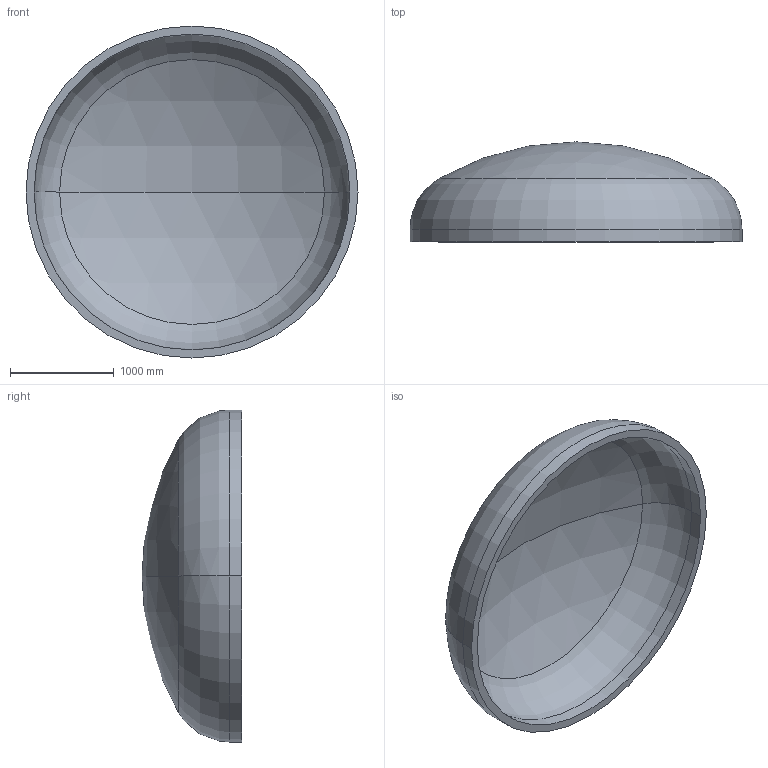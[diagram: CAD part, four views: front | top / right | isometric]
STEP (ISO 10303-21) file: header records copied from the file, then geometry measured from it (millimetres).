
FILE_DESCRIPTION (( 'STEP AP203' ), '1' );
FILE_NAME ('DIN 28013 Korbbogenform_-_Boden DIN 28013 - 3200 x 120 - I - s=78.step', '2016-07-01T18:51:27', ( '' ), ( '' ), 'SwSTEP 2.0', 'SolidWorks 2013', '' );
FILE_SCHEMA (( 'CONFIG_CONTROL_DESIGN' ));
Length unit declared in the file: millimetre
Products named in the file (1): DIN 28013 Korbbogenform_-_Boden DIN 28013 - 3200 x 120 - I - s=78
Bounding box: 3200 x 963.6 x 3200 mm (x, y, z)
Volume: 932318583.2 mm3; surface area: 24683367.1 mm2
Topology: 1 solids, 1 shells, 13 faces, 24 edges, 14 vertices
Faces by surface type: torus 4, cylinder 4, sphere 4, plane 1
Entity records: 407 total; most frequent: DIRECTION 72, CARTESIAN_POINT 52, ORIENTED_EDGE 48, AXIS2_PLACEMENT_3D 34, EDGE_CURVE 24, CIRCLE 20, EDGE_LOOP 14, VERTEX_POINT 14
